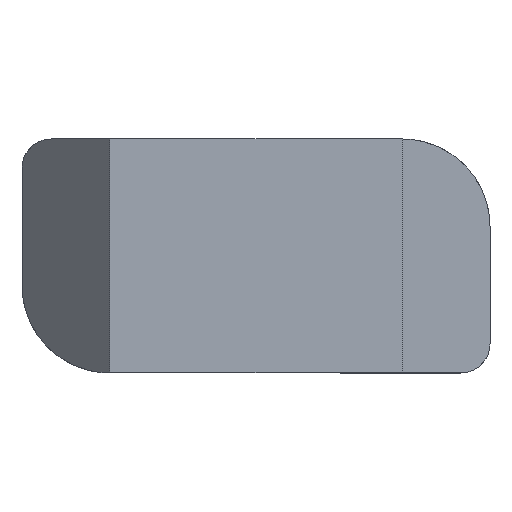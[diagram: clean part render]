
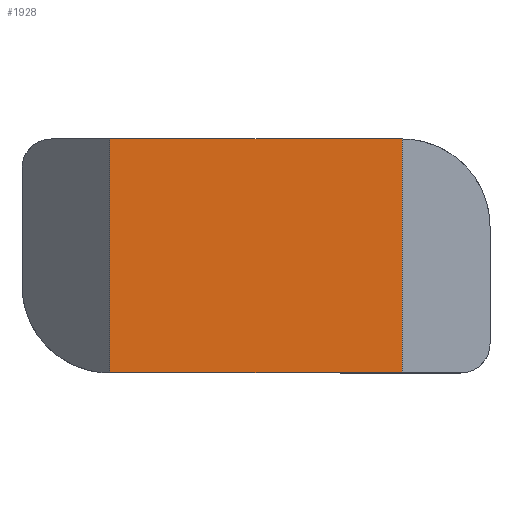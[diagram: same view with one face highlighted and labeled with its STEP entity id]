
A CAD part, front view. The second image highlights one B-rep face of the part: STEP entity #1928.
In plain terms, the highlighted planar face has unit normal (0, -1, 0).
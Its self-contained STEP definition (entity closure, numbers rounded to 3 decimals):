
#97 = PLANE ( 'NONE',  #2347 ) ;
#120 = CARTESIAN_POINT ( 'NONE',  ( 5., -6.5, 4. ) ) ;
#236 = VECTOR ( 'NONE', #1859, 1000. ) ;
#285 = CARTESIAN_POINT ( 'NONE',  ( -5., -6.5, -4. ) ) ;
#563 = EDGE_CURVE ( 'NONE', #587, #4618, #1352, .T. ) ;
#587 = VERTEX_POINT ( 'NONE', #120 ) ;
#605 = CARTESIAN_POINT ( 'NONE',  ( -5., -6.5, 4. ) ) ;
#695 = CARTESIAN_POINT ( 'NONE',  ( -5., -6.5, 4. ) ) ;
#723 = VERTEX_POINT ( 'NONE', #808 ) ;
#808 = CARTESIAN_POINT ( 'NONE',  ( -5., -6.5, 4. ) ) ;
#856 = CARTESIAN_POINT ( 'NONE',  ( -5., -6.5, -4. ) ) ;
#1127 = DIRECTION ( 'NONE',  ( 0., 1., 0. ) ) ;
#1164 = VECTOR ( 'NONE', #3574, 1000. ) ;
#1190 = ORIENTED_EDGE ( 'NONE', *, *, #2756, .T. ) ;
#1352 = LINE ( 'NONE', #3154, #1164 ) ;
#1483 = LINE ( 'NONE', #285, #2438 ) ;
#1859 = DIRECTION ( 'NONE',  ( 0., 0., -1. ) ) ;
#1928 = ADVANCED_FACE ( 'NONE', ( #5668 ), #97, .F. ) ;
#2295 = EDGE_LOOP ( 'NONE', ( #1190, #4209, #4153, #3507 ) ) ;
#2347 = AXIS2_PLACEMENT_3D ( 'NONE', #605, #1127, #2910 ) ;
#2378 = VERTEX_POINT ( 'NONE', #856 ) ;
#2438 = VECTOR ( 'NONE', #4641, 1000. ) ;
#2451 = DIRECTION ( 'NONE',  ( 1., 0., 0. ) ) ;
#2756 = EDGE_CURVE ( 'NONE', #2378, #4618, #1483, .T. ) ;
#2910 = DIRECTION ( 'NONE',  ( -1., 0., 0. ) ) ;
#3154 = CARTESIAN_POINT ( 'NONE',  ( 5., -6.5, 4. ) ) ;
#3507 = ORIENTED_EDGE ( 'NONE', *, *, #4545, .T. ) ;
#3574 = DIRECTION ( 'NONE',  ( 0., 0., -1. ) ) ;
#3662 = CARTESIAN_POINT ( 'NONE',  ( -5., -6.5, 4. ) ) ;
#4035 = VECTOR ( 'NONE', #2451, 1000. ) ;
#4119 = EDGE_CURVE ( 'NONE', #723, #587, #4446, .T. ) ;
#4153 = ORIENTED_EDGE ( 'NONE', *, *, #4119, .F. ) ;
#4209 = ORIENTED_EDGE ( 'NONE', *, *, #563, .F. ) ;
#4446 = LINE ( 'NONE', #695, #4035 ) ;
#4485 = CARTESIAN_POINT ( 'NONE',  ( 5., -6.5, -4. ) ) ;
#4545 = EDGE_CURVE ( 'NONE', #723, #2378, #5119, .T. ) ;
#4618 = VERTEX_POINT ( 'NONE', #4485 ) ;
#4641 = DIRECTION ( 'NONE',  ( 1., 0., 0. ) ) ;
#5119 = LINE ( 'NONE', #3662, #236 ) ;
#5668 = FACE_OUTER_BOUND ( 'NONE', #2295, .T. ) ;
